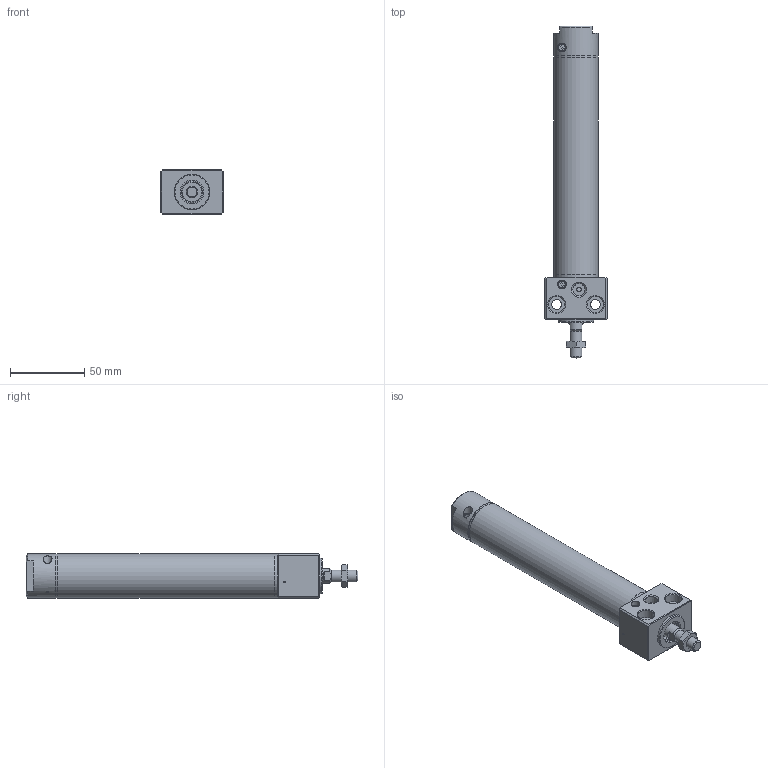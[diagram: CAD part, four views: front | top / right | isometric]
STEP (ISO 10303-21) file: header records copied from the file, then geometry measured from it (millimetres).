
FILE_DESCRIPTION((''),'2;1');
FILE_NAME('I:\3D電子目錄\氣缸\DBS\DBS\DBS25x100-C.stp','2007-10-08T08:33:51',('Administrator'),(''),'Autodesk Inventor 2008','Autodesk Inventor 2008','');
FILE_SCHEMA(('AUTOMOTIVE_DESIGN { 1 0 10303 214 1 1 1 1 }'));
Length unit declared in the file: millimetre
Products named in the file (1): DBS25x100-C
Bounding box: 42 x 223.6 x 30 mm (x, y, z)
Volume: 85532.1 mm3; surface area: 45560.9 mm2
Topology: 8 solids, 8 shells, 204 faces, 409 edges, 251 vertices
Faces by surface type: plane 90, cone 50, cylinder 48, bspline 13, torus 3
Full cylindrical faces by diameter (mm): 1.2 x1, 1.9 x2, 3 x3, 3.3 x2, 4.6 x2, 5 x3, 6 x3, 7 x1, 8 x2, 10 x1, 10.5 x1, 12 x1, 13 x2, 14 x1, 15.5 x2, 16 x2, 17 x1, 18 x2, 23 x2, 24 x1, 25 x1, 25.5 x2, 27.2 x6, 30 x4
Entity records: 5257 total; most frequent: CARTESIAN_POINT 1377, DIRECTION 812, ORIENTED_EDGE 622, AXIS2_PLACEMENT_3D 359, EDGE_LOOP 349, EDGE_CURVE 311, VERTEX_POINT 242, FACE_OUTER_BOUND 204
